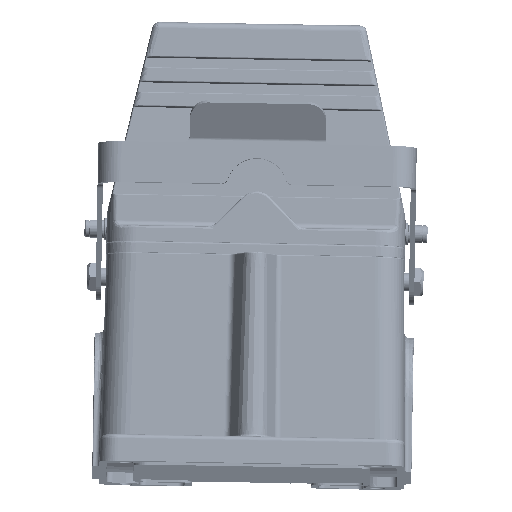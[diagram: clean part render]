
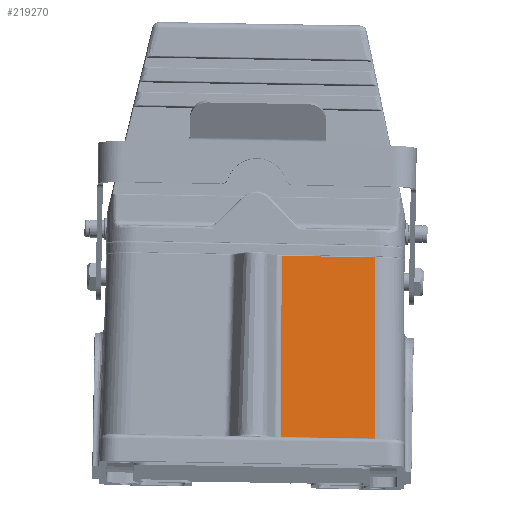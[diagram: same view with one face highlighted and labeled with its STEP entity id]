
A CAD part, top view. The second image highlights one B-rep face of the part: STEP entity #219270.
In plain terms, the highlighted planar face has unit normal (0.002, 0.106, 0.994) as drawn and (0, -1, 0.017) by its records, which use the part's own axes.
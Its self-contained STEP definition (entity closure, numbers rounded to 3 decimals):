
#25564 = CARTESIAN_POINT ( 'NONE',  ( 52.77, -44.509, 33.44 ) ) ;
#32157 = ORIENTED_EDGE ( 'NONE', *, *, #87950, .T. ) ;
#43294 = B_SPLINE_CURVE_WITH_KNOTS ( 'NONE', 3,
 ( #276232, #48806, #251352, #25564 ),
 .UNSPECIFIED., .F., .F.,
 ( 4, 4 ),
 ( 0., 1. ),
 .UNSPECIFIED. ) ;
#48806 = CARTESIAN_POINT ( 'NONE',  ( 25.329, -44.509, 33.44 ) ) ;
#61961 = ORIENTED_EDGE ( 'NONE', *, *, #308074, .T. ) ;
#66580 = AXIS2_PLACEMENT_3D ( 'NONE', #260340, #84279, #283537 ) ;
#80015 = CARTESIAN_POINT ( 'NONE',  ( -54.52, -45.914, -47.086 ) ) ;
#84279 = DIRECTION ( 'NONE',  ( 0., -1., 0.017 ) ) ;
#87777 = EDGE_CURVE ( 'NONE', #190103, #262579, #43294, .T. ) ;
#87950 = EDGE_CURVE ( 'NONE', #190103, #182213, #275438, .T. ) ;
#125388 = EDGE_CURVE ( 'NONE', #262579, #171535, #177361, .T. ) ;
#136415 = CARTESIAN_POINT ( 'NONE',  ( 11.609, -44.509, 33.44 ) ) ;
#145639 = CARTESIAN_POINT ( 'NONE',  ( 12.421, -45.914, -47.086 ) ) ;
#150278 = LINE ( 'NONE', #80015, #312555 ) ;
#152418 = DIRECTION ( 'NONE',  ( 0.017, -0.017, -1. ) ) ;
#155719 = VECTOR ( 'NONE', #152418, 1000. ) ;
#171535 = VERTEX_POINT ( 'NONE', #297846 ) ;
#177361 = LINE ( 'NONE', #278563, #155719 ) ;
#179000 = ORIENTED_EDGE ( 'NONE', *, *, #87777, .F. ) ;
#182213 = VERTEX_POINT ( 'NONE', #145639 ) ;
#184920 = CARTESIAN_POINT ( 'NONE',  ( 52.77, -44.509, 33.44 ) ) ;
#190103 = VERTEX_POINT ( 'NONE', #136415 ) ;
#219270 = ADVANCED_FACE ( 'NONE', ( #258701 ), #230433, .T. ) ;
#222345 = CARTESIAN_POINT ( 'NONE',  ( 11.609, -44.509, 33.44 ) ) ;
#230433 = PLANE ( 'NONE',  #66580 ) ;
#232717 = DIRECTION ( 'NONE',  ( 1., 0., 0. ) ) ;
#251352 = CARTESIAN_POINT ( 'NONE',  ( 39.05, -44.509, 33.44 ) ) ;
#258701 = FACE_OUTER_BOUND ( 'NONE', #327811, .T. ) ;
#260340 = CARTESIAN_POINT ( 'NONE',  ( -70.954, -44.5, 33.931 ) ) ;
#262579 = VERTEX_POINT ( 'NONE', #184920 ) ;
#264467 = DIRECTION ( 'NONE',  ( 0.01, -0.017, -1. ) ) ;
#275438 = LINE ( 'NONE', #222345, #315848 ) ;
#276232 = CARTESIAN_POINT ( 'NONE',  ( 11.609, -44.509, 33.44 ) ) ;
#278563 = CARTESIAN_POINT ( 'NONE',  ( 52.753, -44.492, 34.406 ) ) ;
#283537 = DIRECTION ( 'NONE',  ( -1., 0., 0. ) ) ;
#297846 = CARTESIAN_POINT ( 'NONE',  ( 54.175, -45.914, -47.086 ) ) ;
#306105 = ORIENTED_EDGE ( 'NONE', *, *, #125388, .F. ) ;
#308074 = EDGE_CURVE ( 'NONE', #182213, #171535, #150278, .T. ) ;
#312555 = VECTOR ( 'NONE', #232717, 1000. ) ;
#315848 = VECTOR ( 'NONE', #264467, 1000. ) ;
#327811 = EDGE_LOOP ( 'NONE', ( #306105, #179000, #32157, #61961 ) ) ;
